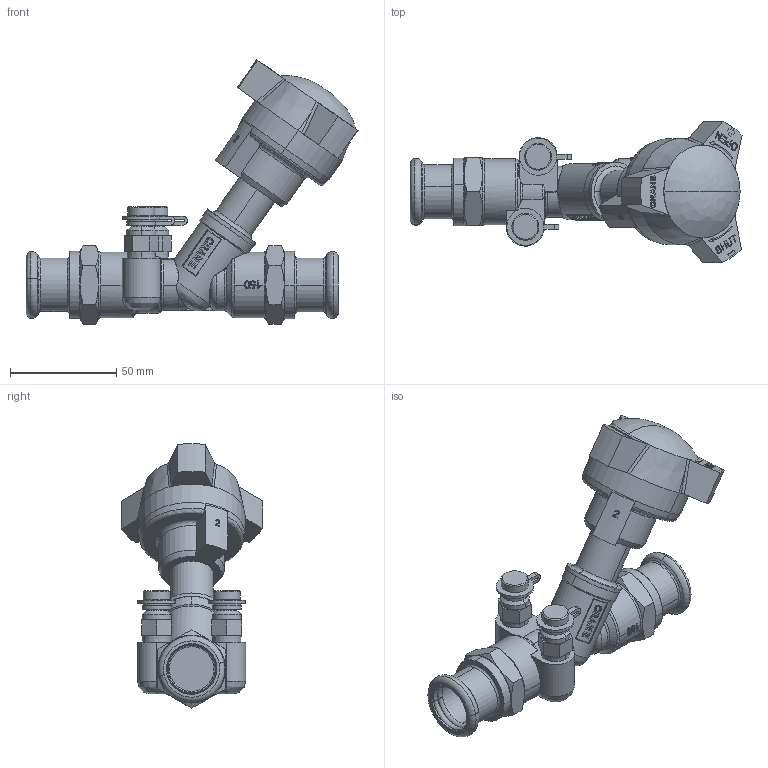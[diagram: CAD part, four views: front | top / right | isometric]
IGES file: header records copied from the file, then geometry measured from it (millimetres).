
Global section: file name: No Iges File Name specified; native system: AutoDesk Inventor R12.0; preprocessor: AutoDesk Inventor Iges Exporter R12.0; date: 20110824.103816; units: millimetre
Bounding box: 156.24 x 66.44 x 124.49 mm (x, y, z)
Volume: 195733.5 mm3; surface area: 42277.4 mm2
Topology: 1 solids, 3 shells, 938 faces, 2490 edges, 1623 vertices
Faces by surface type: bspline 380, plane 353, cylinder 90, cone 60, revolution 30, torus 23, sphere 2
